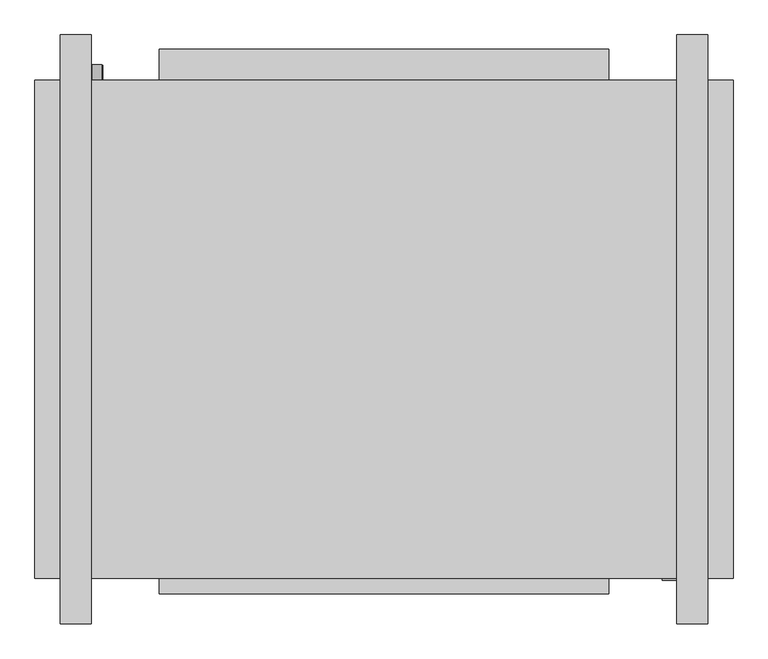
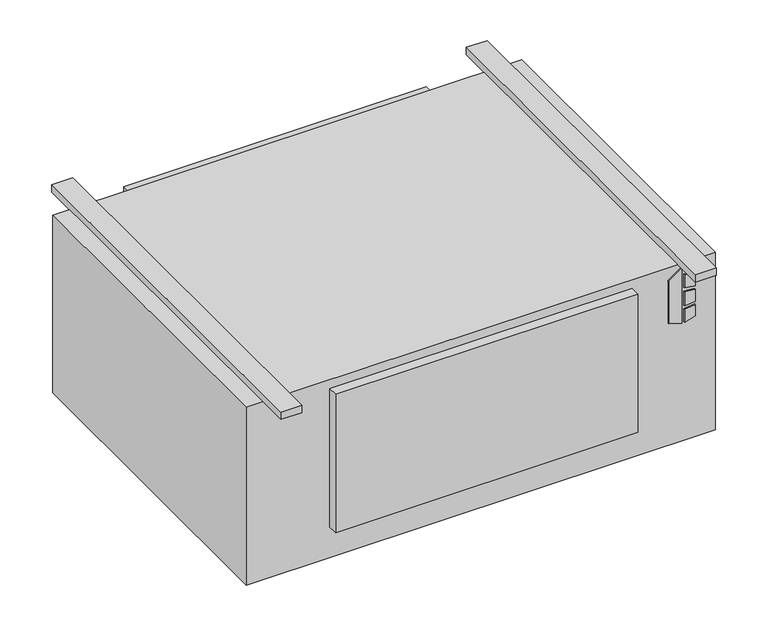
"""IFC4 building model written with IfcOpenShell, lengths in millimetres: proxy geometry, Concealed_High_Capacity_Horizontal_Cabinet_Fan_Coil_Unit_-_HXY_-_IEC_-_4-Pipe_LH_2022 : Size 12 - 277v/60Hz/1Ph - 6/2 Coil."""

from ifc_helpers import new_model, si_unit, point, frame, frame_2d, origin, origin_with_axes, place, context, project, spatial, polyline, circle_curve, trimmed, segment, composite_curve, outline, extrude, source, transform, mapped, element, save


def mechanical_equipment_d6c2aec6(model_context):
    return source(origin(), model_context, "Body", "SweptSolid", [
        extrude(outline(polyline([(-142.4519297, 608.0868862), (-152.4, 640.2602728), (-10.2290756, 640.2602728), (-33.2510817, 608.0868862), (-142.4519297, 608.0868862)])), frame((0.0, -649.2875, 0.0), z_axis=(0.0, 1.0, 0.0), x_axis=(0.0, 0.0, 1.0)), (0.0, 0.0, 1.0), 3.175),
        extrude(outline(polyline([(-63.4526443, 647.0186058), (-66.6550368, 673.1), (-37.4261958, 673.1), (-29.3617807, 647.0186058), (-63.4526443, 647.0186058)])), frame((0.0, -649.2875, 0.0), z_axis=(0.0, 1.0, 0.0), x_axis=(0.0, 0.0, 1.0)), (0.0, 0.0, 1.0), 3.175),
        extrude(outline(polyline([(-115.3161712, 673.1), (-118.9816721, 647.0186058), (-152.4, 647.0186058), (-143.7657628, 673.1), (-115.3161712, 673.1)])), frame((0.0, -649.2875, 0.0), z_axis=(0.0, 1.0, 0.0), x_axis=(0.0, 0.0, 1.0)), (0.0, 0.0, 1.0), 3.175),
        extrude(outline(polyline([(-76.0010097, 673.1), (-73.7191834, 647.0186058), (-109.6567319, 647.0186058), (-106.9154669, 673.1), (-76.0010097, 673.1)])), frame((0.0, -649.2875, 0.0), z_axis=(0.0, 1.0, 0.0), x_axis=(0.0, 0.0, 1.0)), (0.0, 0.0, 1.0), 3.175),
        extrude(outline(composite_curve([segment(trimmed(circle_curve(frame_2d((-406.4, -317.5)), 9.525), [point((-406.4, -327.025))], [point((-406.4, -307.975))], False, "CARTESIAN"), True, "CONTINUOUS"), segment(trimmed(circle_curve(frame_2d((-406.4, -317.5)), 9.525), [point((-406.4, -307.975))], [point((-406.4, -327.025))], False, "CARTESIAN"), True, "CONTINUOUS")], self_intersect=False)), frame((0.0, 169.8625, 0.0), z_axis=(0.0, 1.0, 0.0), x_axis=(0.0, 0.0, 1.0)), (0.0, 0.0, 1.0), 25.4),
        extrude(outline(composite_curve([segment(trimmed(circle_curve(frame_2d((-330.2, -317.5)), 7.9375), [point((-330.2, -325.4375))], [point((-330.2, -309.5625))], False, "CARTESIAN"), True, "CONTINUOUS"), segment(trimmed(circle_curve(frame_2d((-330.2, -317.5)), 7.9375), [point((-330.2, -309.5625))], [point((-330.2, -325.4375))], False, "CARTESIAN"), True, "CONTINUOUS")], self_intersect=False)), frame((0.0, 169.8625, 0.0), z_axis=(0.0, 1.0, 0.0), x_axis=(0.0, 0.0, 1.0)), (0.0, 0.0, 1.0), 25.4),
        extrude(outline(composite_curve([segment(trimmed(circle_curve(frame_2d((-254.0, -317.5)), 7.9375), [point((-254.0, -325.4375))], [point((-254.0, -309.5625))], False, "CARTESIAN"), True, "CONTINUOUS"), segment(trimmed(circle_curve(frame_2d((-254.0, -317.5)), 7.9375), [point((-254.0, -309.5625))], [point((-254.0, -325.4375))], False, "CARTESIAN"), True, "CONTINUOUS")], self_intersect=False)), frame((0.0, 169.8625, 0.0), z_axis=(0.0, 1.0, 0.0), x_axis=(0.0, 0.0, 1.0)), (0.0, 0.0, 1.0), 25.4),
        extrude(outline(composite_curve([segment(trimmed(circle_curve(frame_2d((-177.8, -317.5)), 7.9375), [point((-177.8, -325.4375))], [point((-177.8, -309.5625))], False, "CARTESIAN"), True, "CONTINUOUS"), segment(trimmed(circle_curve(frame_2d((-177.8, -317.5)), 7.9375), [point((-177.8, -309.5625))], [point((-177.8, -325.4375))], False, "CARTESIAN"), True, "CONTINUOUS")], self_intersect=False)), frame((0.0, 169.8625, 0.0), z_axis=(0.0, 1.0, 0.0), x_axis=(0.0, 0.0, 1.0)), (0.0, 0.0, 1.0), 25.4),
        extrude(outline(composite_curve([segment(trimmed(circle_curve(frame_2d((-101.6, -317.5)), 7.9375), [point((-101.6, -325.4375))], [point((-101.6, -309.5625))], False, "CARTESIAN"), True, "CONTINUOUS"), segment(trimmed(circle_curve(frame_2d((-101.6, -317.5)), 7.9375), [point((-101.6, -309.5625))], [point((-101.6, -325.4375))], False, "CARTESIAN"), True, "CONTINUOUS")], self_intersect=False)), frame((0.0, 169.8625, 0.0), z_axis=(0.0, 1.0, 0.0), x_axis=(0.0, 0.0, 1.0)), (0.0, 0.0, 1.0), 25.4),
        extrude(outline(polyline([(723.9, 169.8625), (723.9, -646.1125), (-419.1, -646.1125), (-419.1, 169.8625), (723.9, 169.8625)])), frame((0.0, 0.0, -457.2), z_axis=(0.0, 0.0, 1.0), x_axis=(1.0, 0.0, 0.0)), (0.0, 0.0, 1.0), 457.2),
        extrude(outline(polyline([(-215.9, 220.6625), (520.7, 220.6625), (520.7, 169.8625), (-215.9, 169.8625), (-215.9, 220.6625)])), frame((0.0, 0.0, -377.825), z_axis=(0.0, 0.0, 1.0), x_axis=(1.0, 0.0, 0.0)), (0.0, 0.0, 1.0), 349.25),
        extrude(outline(polyline([(-327.025, 244.475), (-327.025, -720.725), (-377.825, -720.725), (-377.825, 244.475), (-327.025, 244.475)])), origin_with_axes(), (0.0, 0.0, 1.0), 19.05),
        extrude(outline(polyline([(682.625, 244.475), (682.625, -720.725), (631.825, -720.725), (631.825, 244.475), (682.625, 244.475)])), origin_with_axes(), (0.0, 0.0, 1.0), 19.05),
        extrude(outline(polyline([(520.7, -671.5125), (-215.9, -671.5125), (-215.9, -646.1125), (520.7, -646.1125), (520.7, -671.5125)])), frame((0.0, 0.0, -377.825), z_axis=(0.0, 0.0, 1.0), x_axis=(1.0, 0.0, 0.0)), (0.0, 0.0, 1.0), 355.6),
    ])


if __name__ == "__main__":
    model = new_model("IFC4")
    model_context = context("Model", 3, world=origin())
    ifc_project = project(units=[si_unit("LENGTHUNIT", "METRE", prefix="MILLI")], contexts=[model_context])
    site = spatial("IfcSite", under=ifc_project)
    building = spatial("IfcBuilding", under=site)
    placement = place(None, origin())
    mechanical_equipment_shape = mechanical_equipment_d6c2aec6(model_context)
    element("IfcBuildingElementProxy", 1, Name="Concealed_High_Capacity_Horizontal_Cabinet_Fan_Coil_Unit_-_HXY_-_IEC_-_4-Pipe_LH_2022 : Size 12 - 277v/60Hz/1Ph - 6/2 Coil", ObjectType="Concealed_High_Capacity_Horizontal_Cabinet_Fan_Coil_Unit_-_HXY_-_IEC_-_4-Pipe_LH_2022 : Size 12 - 277v/60Hz/1Ph - 6/2 Coil", at=placement, inside=building, context=model_context, shape_type="MappedRepresentation", body=[
        mapped(mechanical_equipment_shape, transform((0.0, 0.0, 0.0), x_axis=(1.0, 0.0, 0.0), y_axis=(0.0, 1.0, 0.0), z_axis=(0.0, 0.0, 1.0))),
    ])
    save(model, "model.ifc")
